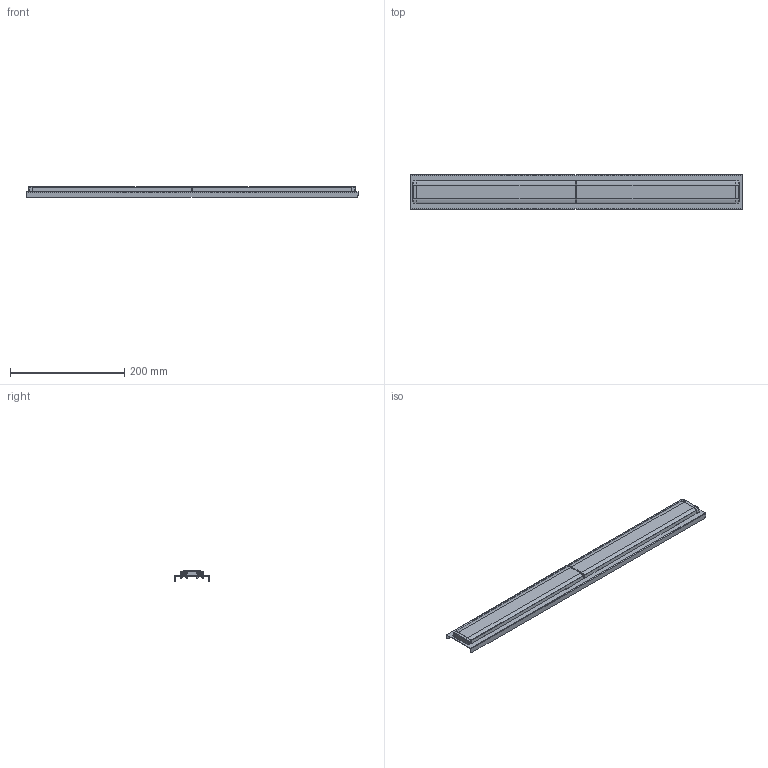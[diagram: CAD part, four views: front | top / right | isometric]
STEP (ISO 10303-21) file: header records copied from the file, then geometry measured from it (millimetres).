
FILE_DESCRIPTION(('CAx-IF Rec.Pracs.---Model Styling and Organization---1.2---2011-12-15','CAx-IF Rec.Pracs.---Geometric and Assembly Validation Properties---4.1---2014-06-16','CAx-IF Rec.Pracs.---PMI Polyline Presentation---2.0---2013-05-24'),'2;1');
FILE_NAME('022YM00Y0G.stp','2020-01-22T10:14:21+01:00',(''),(''),'STEP Interface 4.3 by CT CoreTechnologie','3D_Evolution4.3 by CT CoreTechnologie','');
FILE_SCHEMA(('AP203_CONFIGURATION_CONTROLLED_3D_DESIGN_OF_MECHANICAL_PARTS_AND_ASSEMBLIES_MIM_LF'));
Length unit declared in the file: millimetre
Products named in the file (4): 022-M00-0G; 022-M00-0F; 022-M00-0C; 021-907-01
Assembly tree (5 placements, depth 2):
  022-M00-0G
    022-M00-0F
    022-M00-0C  x2
    021-907-01  x2
Bounding box: 580 x 60 x 18.4 mm (x, y, z)
Volume: 119464.3 mm3; surface area: 160624.2 mm2
Topology: 5 solids, 5 shells, 2506 faces, 6574 edges, 4030 vertices
Faces by surface type: bspline 1190, plane 764, cylinder 552
Entity records: 61885 total; most frequent: CARTESIAN_POINT 21078, ORIENTED_EDGE 6776, DIRECTION 6148, EDGE_CURVE 3388, AXIS2_PLACEMENT_3D 2191, VERTEX_POINT 2116, VECTOR 1766, LINE 1766
